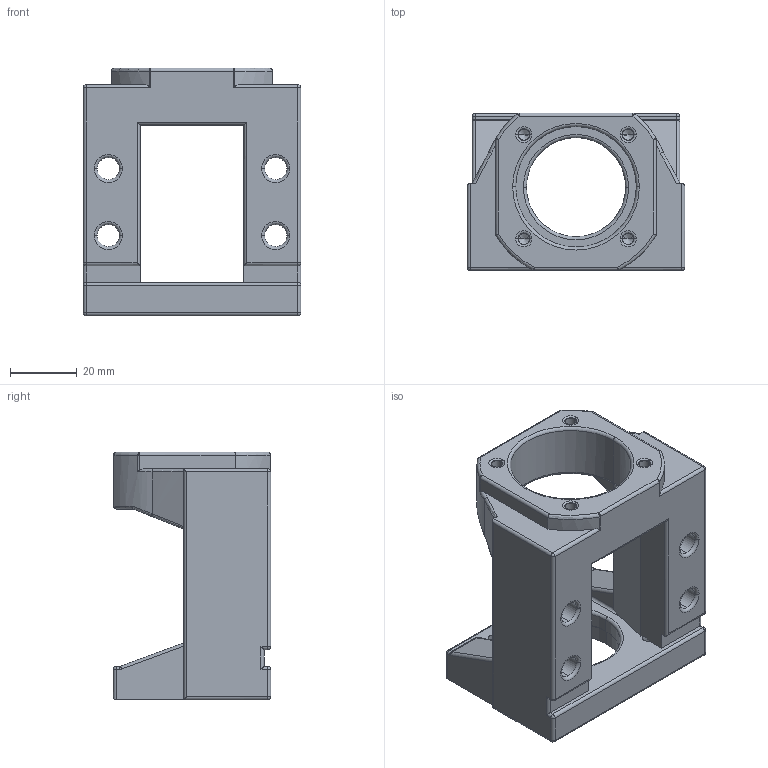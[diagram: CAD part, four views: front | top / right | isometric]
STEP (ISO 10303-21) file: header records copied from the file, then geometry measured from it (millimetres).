
FILE_DESCRIPTION (( 'STEP AP203' ), '1' );
FILE_NAME ('MBA12-B.STEP', '2017-12-28T05:57:50', ( '' ), ( '' ), 'SwSTEP 2.0', 'SolidWorks 2017', '' );
FILE_SCHEMA (( 'CONFIG_CONTROL_DESIGN' ));
Length unit declared in the file: millimetre
Products named in the file (1): MBA12-B
Bounding box: 65 x 47 x 74 mm (x, y, z)
Volume: 85499.4 mm3; surface area: 25027.1 mm2
Topology: 1 solids, 1 shells, 228 faces, 572 edges, 322 vertices
Faces by surface type: cylinder 98, plane 40, torus 36, cone 28, sphere 18, bspline 8
Entity records: 6983 total; most frequent: CARTESIAN_POINT 1625, DIRECTION 1164, ORIENTED_EDGE 1088, EDGE_CURVE 544, AXIS2_PLACEMENT_3D 467, VERTEX_POINT 322, EDGE_LOOP 254, CIRCLE 246
